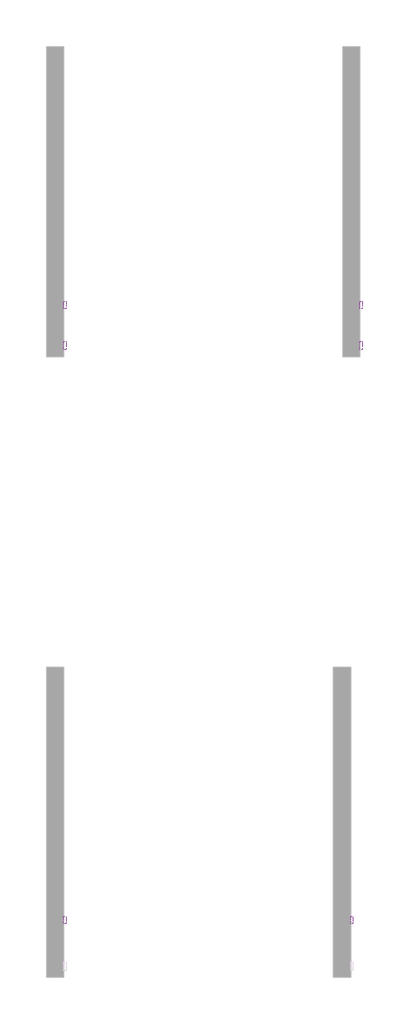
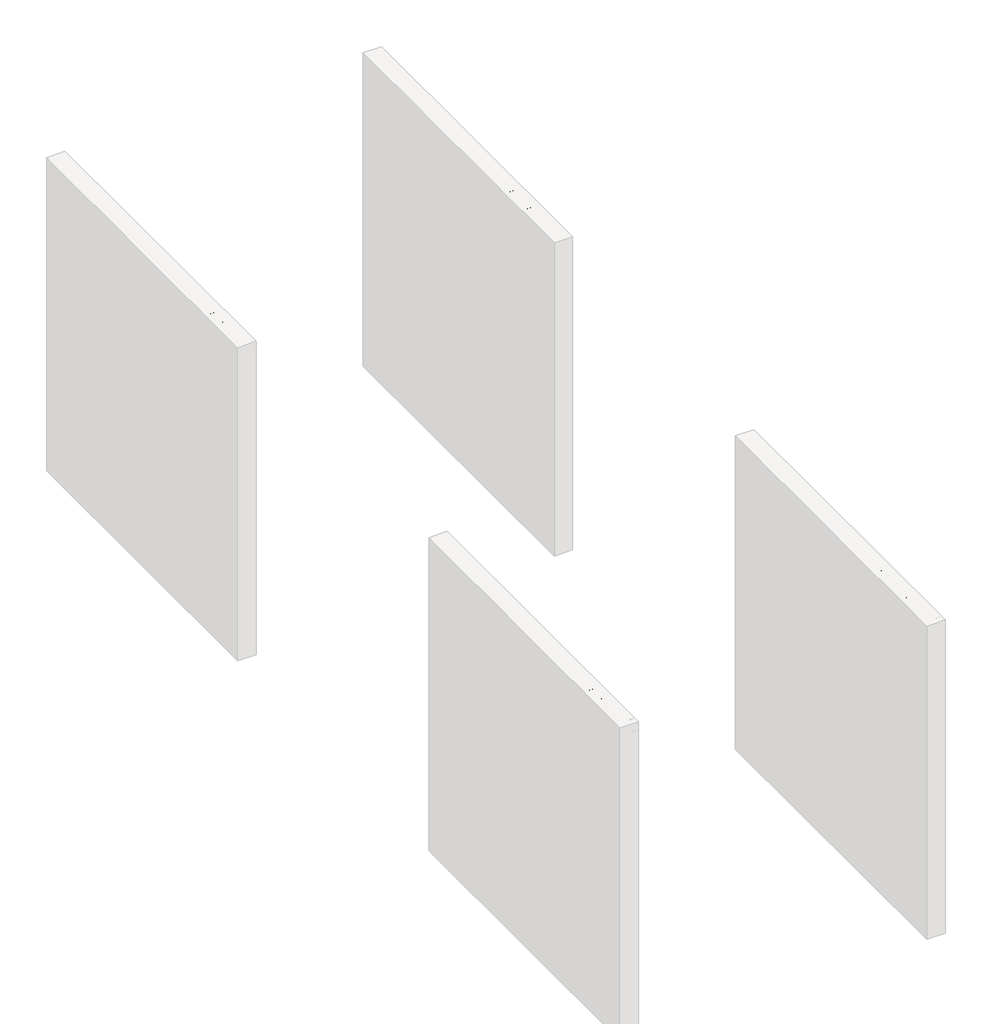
# One storey, part 6 of 8: 6 proxies.
"""IFC4 building model written with IfcOpenShell, lengths in millimetres."""

import ifcopenshell
import ifcopenshell.guid

model = None  # the IFC model being written
_history = None  # IfcOwnerHistory: only IFC2X3 demands one
_inside = {}  # id of a spatial element -> (the spatial element, [elements in it])
_under = {}  # id of a project, library or spatial element -> (it, [spatial elements below it])
_declared = {}  # id of a project -> (the project, [libraries it declares])
_typed = {}  # id of a type object -> (the type object, [elements of that type])
_made_of = {}  # id of a material, layer set ... -> (it, [elements and type objects made of it])


def new_model(schema):
    """Start an empty IFC model of exactly this schema.

    Asked for "IFC4X3", IfcOpenShell would pick the latest addendum, in which some entities
    have other attributes; the version numbers below select the first issue.
    IFC2X3 requires an IfcOwnerHistory on every rooted entity: one is made here for all.
    """
    global model, _history
    if schema == "IFC4X3":
        model = ifcopenshell.file(schema_version=(4, 3, 0, 0))
    else:
        model = ifcopenshell.file(schema=schema)
    _inside.clear()
    _under.clear()
    _declared.clear()
    _typed.clear()
    _made_of.clear()
    _history = None
    if model.schema == "IFC2X3":
        org = make("IfcOrganization", Name="unknown")
        user = make(
            "IfcPersonAndOrganization",
            ThePerson=make("IfcPerson", FamilyName="unknown"),
            TheOrganization=org,
        )
        app = make(
            "IfcApplication",
            ApplicationDeveloper=org,
            Version="unknown",
            ApplicationFullName="unknown",
            ApplicationIdentifier="unknown",
        )
        _history = make(
            "IfcOwnerHistory",
            OwningUser=user,
            OwningApplication=app,
            ChangeAction="ADDED",
            CreationDate=0,
        )
    return model


def make(cls, **values):
    """One entity of the class cls with the attributes given. An attribute that is None is left unset."""
    return model.create_entity(
        cls, **{name: value for name, value in values.items() if value is not None}
    )


def rooted(cls, **values):
    """An entity with a GlobalId (a new one), such as an element, a storey or a relation."""
    return make(cls, GlobalId=ifcopenshell.guid.new(), OwnerHistory=_history, **values)


def si_unit(unit_type, name, prefix=None):
    """IfcSIUnit, for example si_unit("LENGTHUNIT", "METRE", prefix="MILLI")."""
    return make("IfcSIUnit", UnitType=unit_type, Prefix=prefix, Name=name)


def assignment(units):
    """IfcUnitAssignment: the units of a project."""
    return None if units is None else make("IfcUnitAssignment", Units=units)


def point(xyz):
    """IfcCartesianPoint."""
    return None if xyz is None else make("IfcCartesianPoint", Coordinates=xyz)


def direction(xyz):
    """IfcDirection."""
    return None if xyz is None else make("IfcDirection", DirectionRatios=xyz)


def frame(location, z_axis=None, x_axis=None):
    """IfcAxis2Placement3D, a coordinate frame: its origin and axes. An axis left out is left unset."""
    return make(
        "IfcAxis2Placement3D",
        Location=point(location),
        Axis=direction(z_axis),
        RefDirection=direction(x_axis),
    )


def origin():
    """The frame at (0, 0, 0) with its axes left unset."""
    return frame((0.0, 0.0, 0.0))


def place(relative_to, where):
    """IfcLocalPlacement: puts the frame where relative to a parent placement (None: the world)."""
    return make(
        "IfcLocalPlacement", PlacementRelTo=relative_to, RelativePlacement=where
    )


def context(
    kind, dimensions, precision=None, world=None, true_north=None, identifier=None
):
    """IfcGeometricRepresentationContext, for example the 3D "Model" context."""
    return make(
        "IfcGeometricRepresentationContext",
        ContextIdentifier=identifier,
        ContextType=kind,
        CoordinateSpaceDimension=dimensions,
        Precision=precision,
        WorldCoordinateSystem=world,
        TrueNorth=true_north,
    )


def project(units=None, contexts=None):
    """IfcProject with its units and contexts."""
    return rooted(
        "IfcProject",
        Name="project",
        RepresentationContexts=contexts,
        UnitsInContext=assignment(units),
    )


def spatial(cls, under=None, at=None, **own):
    """A site, building, storey or space (cls), placed at a placement, below another one or the project."""
    s = rooted(cls, ObjectPlacement=at, **own)
    if under is not None:
        _under.setdefault(under.id(), (under, []))[1].append(s)
    return s


def polyline(points):
    """IfcPolyline through the points."""
    return make("IfcPolyline", Points=[point(p) for p in points])


def outline(outer, holes=None, kind="AREA"):
    """IfcArbitraryClosedProfileDef: a profile drawn as a closed curve; with holes, ...WithVoids."""
    if holes is None:
        return make("IfcArbitraryClosedProfileDef", ProfileType=kind, OuterCurve=outer)
    return make(
        "IfcArbitraryProfileDefWithVoids",
        ProfileType=kind,
        OuterCurve=outer,
        InnerCurves=holes,
    )


def extrude(swept, where, along, depth):
    """IfcExtrudedAreaSolid: the profile swept, set in the frame where, extruded along a direction by depth."""
    return make(
        "IfcExtrudedAreaSolid",
        SweptArea=swept,
        Position=where,
        ExtrudedDirection=direction(along),
        Depth=depth,
    )


def shape(context_of_items, identifier, shape_type, items):
    """IfcShapeRepresentation: the items that make up one representation, for example the "Body"."""
    return make(
        "IfcShapeRepresentation",
        ContextOfItems=context_of_items,
        RepresentationIdentifier=identifier,
        RepresentationType=shape_type,
        Items=items,
    )


def made_of(thing, what):
    """Note that an element or type object is made of a material, layer set ...; save() writes the relation."""
    if what is not None:
        _made_of.setdefault(what.id(), (what, []))[1].append(thing)
    return thing


def element(
    cls,
    number,
    at=None,
    inside=None,
    cuts=None,
    type_object=None,
    material=None,
    context=None,
    identifier="Body",
    shape_type=None,
    held_by="IfcProductDefinitionShape",
    body=None,
    shapes=None,
    **own,
):
    """One element of the class cls, such as IfcWall. Its Tag is "e" and its number.

    at: its placement. inside: the storey or other place that contains it. cuts: it is an
    opening in that element (IfcRelVoidsElement). A single representation is given by context,
    identifier, shape_type and body (its items); several are given by shapes. held_by: the class
    of the entity that holds the representations. save() writes the other relations.
    """
    e = rooted(cls, Tag="e%d" % number, ObjectPlacement=at, **own)
    if body is not None:
        shapes = [shape(context, identifier, shape_type, body)]
    if shapes is not None:
        e.Representation = make(held_by, Representations=shapes)
    if inside is not None:
        _inside.setdefault(inside.id(), (inside, []))[1].append(e)
    if cuts is not None:
        rooted(
            "IfcRelVoidsElement", RelatingBuildingElement=cuts, RelatedOpeningElement=e
        )
    if type_object is not None:
        _typed.setdefault(type_object.id(), (type_object, []))[1].append(e)
    return made_of(e, material)


def aggregate(whole, parts):
    """IfcRelAggregates: a whole, such as a stair, and the parts it consists of."""
    return rooted("IfcRelAggregates", RelatingObject=whole, RelatedObjects=parts)


def save(model, path):
    """Write the relations noted so far, then the file.

    IfcRelAggregates (storeys below a building ...), IfcRelContainedInSpatialStructure (elements
    in a storey), IfcRelDefinesByType, IfcRelAssociatesMaterial and IfcRelDeclares: one each for
    every whole, place, type object, material and project.
    """
    for whole, parts in _under.values():
        aggregate(whole, parts)
    for where, things in _inside.values():
        rooted(
            "IfcRelContainedInSpatialStructure",
            RelatedElements=things,
            RelatingStructure=where,
        )
    for kind, things in _typed.values():
        rooted("IfcRelDefinesByType", RelatedObjects=things, RelatingType=kind)
    for what, things in _made_of.values():
        rooted("IfcRelAssociatesMaterial", RelatedObjects=things, RelatingMaterial=what)
    for by, libraries in _declared.values():
        rooted("IfcRelDeclares", RelatingContext=by, RelatedDefinitions=libraries)
    model.write(path)


model = new_model("IFC4")

# Units and contexts
model_context = context("Model", 3, world=origin())
ifc_project = project(units=[si_unit("LENGTHUNIT", "METRE", prefix="MILLI")], contexts=[model_context])

# Site, building, storey
site = spatial("IfcSite", under=ifc_project)
building = spatial("IfcBuilding", under=site)
storey = spatial("IfcBuildingStorey", under=building, Name="PORTOBELLO - SHOWROOM", Elevation=0.0)

# Proxies
placement = place(None, origin())
element("IfcBuildingElementProxy", 1, Name="10mm Arial", ObjectType="10mm Arial", at=placement, inside=storey, context=model_context, shape_type="SweptSolid", body=[
    extrude(outline(polyline([(7035.0884642, 2548.8308244), (7035.0884642, 2649.2871345), (7072.3181221, 2649.2871345), (7087.3277075, 2648.3306413), (7099.529127, 2643.6340145), (7107.4385899, 2633.9219299), (7110.4306968, 2620.2244569), (7108.4104115, 2608.384788), (7102.3495556, 2598.5194192), (7091.0157245, 2591.8607551), (7073.1765134, 2589.6412004), (7047.645503, 2589.6412004), (7047.645503, 2548.8308244), (7035.0884642, 2548.8308244)]), holes=[polyline([(7047.645503, 2602.1982392), (7073.9122774, 2602.1982392), (7092.404479, 2606.8090268), (7096.5063633, 2612.3579136), (7097.873658, 2619.7829985), (7094.6485592, 2630.1817963), (7086.1750106, 2635.8717044), (7073.6179718, 2636.7300958), (7047.645503, 2636.7300958), (7047.645503, 2602.1982392)])]), frame((-16651.6960483, 0.0, 0.0), z_axis=(1.0, 0.0, 0.0), x_axis=(0.0, 1.0, 0.0)), (0.0, 0.0, 1.0), 20.0),
    extrude(outline(polyline([(7126.1269953, 2548.8308244), (7126.1269953, 2622.6034272), (7137.1144042, 2622.6034272), (7137.1144042, 2611.6895946), (7144.9135025, 2621.7450358), (7152.7616517, 2624.173057), (7165.3677414, 2620.2980333), (7161.1738867, 2609.0408443), (7152.3447188, 2611.6160182), (7145.2445963, 2609.1389461), (7140.7196477, 2602.2718156), (7138.684034, 2587.6055867), (7138.684034, 2548.8308244), (7126.1269953, 2548.8308244)])), frame((-16651.6960483, 0.0, 0.0), z_axis=(1.0, 0.0, 0.0), x_axis=(0.0, 1.0, 0.0)), (0.0, 0.0, 1.0), 20.0),
    extrude(outline(polyline([(7224.8665228, 2570.8056422), (7237.1783069, 2569.2360124), (7232.7422631, 2559.9592547), (7225.6636004, 2553.0246791), (7216.1017342, 2548.7020657), (7204.2160801, 2547.2611945), (7189.4824062, 2549.7474637), (7178.1455094, 2557.2062711), (7170.9166282, 2569.1532389), (7168.5070011, 2585.1039891), (7170.9411536, 2601.5912339), (7178.2436112, 2613.9214121), (7189.4272239, 2621.6101458), (7203.5048416, 2624.173057), (7217.1440666, 2621.6162771), (7228.0425707, 2613.9459375), (7235.1886784, 2601.6402848), (7237.5707143, 2585.1775655), (7237.4971379, 2581.7930512), (7181.0640399, 2581.7930512), (7183.2376093, 2572.3936662), (7188.2867897, 2565.483616), (7195.5739189, 2561.234579), (7204.4613348, 2559.8182333), (7216.7731189, 2562.4424582), (7224.8665228, 2570.8056422)]), holes=[polyline([(7181.0640399, 2594.3500899), (7225.0136756, 2594.3500899), (7219.985955, 2605.7299063), (7212.6651033, 2610.1444902), (7203.4557906, 2611.6160182), (7187.9924841, 2606.9193914), (7183.1272447, 2601.4287526), (7181.0640399, 2594.3500899)])]), frame((-16651.6960483, 0.0, 0.0), z_axis=(1.0, 0.0, 0.0), x_axis=(0.0, 1.0, 0.0)), (0.0, 0.0, 1.0), 20.0),
    extrude(outline(polyline([(7276.8114605, 2559.3031985), (7278.3810903, 2548.4629424), (7268.9878367, 2547.2611945), (7258.4664117, 2549.3458592), (7253.2179619, 2554.8150382), (7251.697383, 2569.0643341), (7251.697383, 2610.0463884), (7242.2796039, 2610.0463884), (7242.2796039, 2622.6034272), (7251.697383, 2622.6034272), (7251.697383, 2640.531543), (7264.2544217, 2647.9137084), (7264.2544217, 2622.6034272), (7276.8114605, 2622.6034272), (7276.8114605, 2610.0463884), (7264.2544217, 2610.0463884), (7264.2544217, 2569.4322161), (7264.9166093, 2562.957493), (7267.0625876, 2560.6643619), (7271.3422815, 2559.8182333), (7276.8114605, 2559.3031985)])), frame((-16651.6960483, 0.0, 0.0), z_axis=(1.0, 0.0, 0.0), x_axis=(0.0, 1.0, 0.0)), (0.0, 0.0, 1.0), 20.0),
    extrude(outline(polyline([(7286.2292396, 2585.7171258), (7288.945435, 2603.5042202), (7297.0940212, 2616.0060767), (7307.1617251, 2622.1313119), (7319.2159918, 2624.173057), (7332.407627, 2621.6867878), (7342.9443805, 2614.2279804), (7349.8513649, 2602.3852458), (7352.1536931, 2586.7471954), (7348.0824657, 2564.4044955), (7336.2244027, 2551.7616176), (7319.2159918, 2547.2611945), (7305.8649411, 2549.7382666), (7295.3404503, 2557.1694829), (7288.5070423, 2569.2605379), (7286.2292396, 2585.7171258)]), holes=[polyline([(7298.7862783, 2585.7416512), (7300.2394122, 2574.3771633), (7304.5988139, 2566.2806937), (7311.1593761, 2561.4338484), (7319.2159918, 2559.8182333), (7327.2358193, 2561.4430455), (7333.7841188, 2566.3174819), (7338.1435205, 2574.5212504), (7339.5966543, 2586.1340587), (7338.1343234, 2597.1674529), (7333.7473306, 2605.1535578), (7327.189834, 2610.0004031), (7319.2159918, 2611.6160182), (7311.1593761, 2610.0065345), (7304.5988139, 2605.1780833), (7300.2394122, 2597.1000078), (7298.7862783, 2585.7416512)])]), frame((-16651.6960483, 0.0, 0.0), z_axis=(1.0, 0.0, 0.0), x_axis=(0.0, 1.0, 0.0)), (0.0, 0.0, 1.0), 20.0),
])
element("IfcBuildingElementProxy", 2, Name="10mm Arial", ObjectType="10mm Arial", at=placement, inside=storey, context=model_context, shape_type="SweptSolid", body=[
    extrude(outline(polyline([(7035.0884642, 2548.8308244), (7035.0884642, 2649.2871345), (7072.3181221, 2649.2871345), (7087.3277075, 2648.3306413), (7099.529127, 2643.6340145), (7107.4385899, 2633.9219299), (7110.4306968, 2620.2244569), (7108.4104115, 2608.384788), (7102.3495556, 2598.5194192), (7091.0157245, 2591.8607551), (7073.1765134, 2589.6412004), (7047.645503, 2589.6412004), (7047.645503, 2548.8308244), (7035.0884642, 2548.8308244)]), holes=[polyline([(7047.645503, 2602.1982392), (7073.9122774, 2602.1982392), (7092.404479, 2606.8090268), (7096.5063633, 2612.3579136), (7097.873658, 2619.7829985), (7094.6485592, 2630.1817963), (7086.1750106, 2635.8717044), (7073.6179718, 2636.7300958), (7047.645503, 2636.7300958), (7047.645503, 2602.1982392)])]), frame((-19232.9960483, 0.0, 0.0), z_axis=(1.0, 0.0, 0.0), x_axis=(0.0, 1.0, 0.0)), (0.0, 0.0, 1.0), 20.0),
    extrude(outline(polyline([(7126.1269953, 2548.8308244), (7126.1269953, 2622.6034272), (7137.1144042, 2622.6034272), (7137.1144042, 2611.6895946), (7144.9135025, 2621.7450358), (7152.7616517, 2624.173057), (7165.3677414, 2620.2980333), (7161.1738867, 2609.0408443), (7152.3447188, 2611.6160182), (7145.2445963, 2609.1389461), (7140.7196477, 2602.2718156), (7138.684034, 2587.6055867), (7138.684034, 2548.8308244), (7126.1269953, 2548.8308244)])), frame((-19232.9960483, 0.0, 0.0), z_axis=(1.0, 0.0, 0.0), x_axis=(0.0, 1.0, 0.0)), (0.0, 0.0, 1.0), 20.0),
    extrude(outline(polyline([(7224.8665228, 2570.8056422), (7237.1783069, 2569.2360124), (7232.7422631, 2559.9592547), (7225.6636004, 2553.0246791), (7216.1017342, 2548.7020657), (7204.2160801, 2547.2611945), (7189.4824062, 2549.7474637), (7178.1455094, 2557.2062711), (7170.9166282, 2569.1532389), (7168.5070011, 2585.1039891), (7170.9411536, 2601.5912339), (7178.2436112, 2613.9214121), (7189.4272239, 2621.6101458), (7203.5048416, 2624.173057), (7217.1440666, 2621.6162771), (7228.0425707, 2613.9459375), (7235.1886784, 2601.6402848), (7237.5707143, 2585.1775655), (7237.4971379, 2581.7930512), (7181.0640399, 2581.7930512), (7183.2376093, 2572.3936662), (7188.2867897, 2565.483616), (7195.5739189, 2561.234579), (7204.4613348, 2559.8182333), (7216.7731189, 2562.4424582), (7224.8665228, 2570.8056422)]), holes=[polyline([(7181.0640399, 2594.3500899), (7225.0136756, 2594.3500899), (7219.985955, 2605.7299063), (7212.6651033, 2610.1444902), (7203.4557906, 2611.6160182), (7187.9924841, 2606.9193914), (7183.1272447, 2601.4287526), (7181.0640399, 2594.3500899)])]), frame((-19232.9960483, 0.0, 0.0), z_axis=(1.0, 0.0, 0.0), x_axis=(0.0, 1.0, 0.0)), (0.0, 0.0, 1.0), 20.0),
    extrude(outline(polyline([(7276.8114605, 2559.3031985), (7278.3810903, 2548.4629424), (7268.9878367, 2547.2611945), (7258.4664117, 2549.3458592), (7253.2179619, 2554.8150382), (7251.697383, 2569.0643341), (7251.697383, 2610.0463884), (7242.2796039, 2610.0463884), (7242.2796039, 2622.6034272), (7251.697383, 2622.6034272), (7251.697383, 2640.531543), (7264.2544217, 2647.9137084), (7264.2544217, 2622.6034272), (7276.8114605, 2622.6034272), (7276.8114605, 2610.0463884), (7264.2544217, 2610.0463884), (7264.2544217, 2569.4322161), (7264.9166093, 2562.957493), (7267.0625876, 2560.6643619), (7271.3422815, 2559.8182333), (7276.8114605, 2559.3031985)])), frame((-19232.9960483, 0.0, 0.0), z_axis=(1.0, 0.0, 0.0), x_axis=(0.0, 1.0, 0.0)), (0.0, 0.0, 1.0), 20.0),
    extrude(outline(polyline([(7286.2292396, 2585.7171258), (7288.945435, 2603.5042202), (7297.0940212, 2616.0060767), (7307.1617251, 2622.1313119), (7319.2159918, 2624.173057), (7332.407627, 2621.6867878), (7342.9443805, 2614.2279804), (7349.8513649, 2602.3852458), (7352.1536931, 2586.7471954), (7348.0824657, 2564.4044955), (7336.2244027, 2551.7616176), (7319.2159918, 2547.2611945), (7305.8649411, 2549.7382666), (7295.3404503, 2557.1694829), (7288.5070423, 2569.2605379), (7286.2292396, 2585.7171258)]), holes=[polyline([(7298.7862783, 2585.7416512), (7300.2394122, 2574.3771633), (7304.5988139, 2566.2806937), (7311.1593761, 2561.4338484), (7319.2159918, 2559.8182333), (7327.2358193, 2561.4430455), (7333.7841188, 2566.3174819), (7338.1435205, 2574.5212504), (7339.5966543, 2586.1340587), (7338.1343234, 2597.1674529), (7333.7473306, 2605.1535578), (7327.189834, 2610.0004031), (7319.2159918, 2611.6160182), (7311.1593761, 2610.0065345), (7304.5988139, 2605.1780833), (7300.2394122, 2597.1000078), (7298.7862783, 2585.7416512)])]), frame((-19232.9960483, 0.0, 0.0), z_axis=(1.0, 0.0, 0.0), x_axis=(0.0, 1.0, 0.0)), (0.0, 0.0, 1.0), 20.0),
])
element("IfcBuildingElementProxy", 3, Name="10mm Arial Narrow", ObjectType="10mm Arial Narrow", at=placement, inside=storey, context=model_context, shape_type="SweptSolid", body=[
    extrude(outline(polyline([(7392.2235233, 2548.8308244), (7392.2235233, 2649.5494281), (7423.520408, 2649.5494281), (7439.8161095, 2647.6711074), (7451.2890956, 2638.1906642), (7455.5787741, 2621.1715554), (7453.7924657, 2609.0957299), (7448.4335405, 2599.4693361), (7438.6897516, 2593.1680777), (7423.7488524, 2591.0676582), (7401.970485, 2591.0676582), (7401.970485, 2548.8308244), (7392.2235233, 2548.8308244)]), holes=[polyline([(7401.970485, 2602.4391135), (7424.9418399, 2602.4391135), (7440.8060353, 2606.9699277), (7445.8318124, 2620.6385184), (7443.3569979, 2630.8042949), (7437.3793691, 2636.6042447), (7424.7133955, 2638.1779729), (7401.970485, 2638.1779729), (7401.970485, 2602.4391135)])]), frame((-16651.6960483, 0.0, 0.0), z_axis=(1.0, 0.0, 0.0), x_axis=(0.0, 1.0, 0.0)), (0.0, 0.0, 1.0), 20.0),
    extrude(outline(polyline([(7463.7012421, 2585.3819306), (7465.655711, 2601.9727061), (7471.5191176, 2613.9247909), (7480.3776843, 2621.1493455), (7491.3176335, 2623.5575304), (7502.130669, 2621.1493455), (7511.0146185, 2613.9247909), (7516.9541732, 2602.1630765), (7518.9340248, 2586.143412), (7516.9890745, 2568.9815254), (7511.1542234, 2556.8390702), (7502.3051752, 2549.6145156), (7491.3176335, 2547.2063308), (7480.4570053, 2549.6208613), (7471.5825744, 2556.8644529), (7465.6715752, 2568.8228834), (7463.7012421, 2585.3819306)]), holes=[polyline([(7473.4482038, 2585.4073133), (7474.7522406, 2572.8555619), (7478.6643512, 2563.9843038), (7484.505548, 2558.7110453), (7491.5968433, 2556.9532924), (7498.3169165, 2558.7269095), (7504.0089898, 2564.0477606), (7507.8925448, 2572.9348829), (7509.1870632, 2585.4073133), (7507.8830263, 2597.9209906), (7503.9709157, 2606.7795573), (7498.129719, 2612.0528159), (7491.0384236, 2613.8105687), (7484.2707579, 2612.0432974), (7478.5882031, 2606.7414833), (7474.7332036, 2597.873398), (7473.4482038, 2585.4073133)])]), frame((-16651.6960483, 0.0, 0.0), z_axis=(1.0, 0.0, 0.0), x_axis=(0.0, 1.0, 0.0)), (0.0, 0.0, 1.0), 20.0),
    extrude(outline(polyline([(7590.4117436, 2556.9532924), (7592.0362372, 2547.2063308), (7584.6752505, 2547.2063308), (7576.4004862, 2549.3257873), (7572.0854251, 2555.1257371), (7570.9178203, 2569.7715623), (7570.9178203, 2612.1860751), (7562.7953522, 2612.1860751), (7562.7953522, 2615.4350624), (7561.1708586, 2610.5615815), (7553.6068103, 2612.1860751), (7547.5276506, 2609.8635569), (7543.6567869, 2603.3782738), (7541.6769353, 2587.9709673), (7541.6769353, 2548.8308244), (7531.9299737, 2548.8308244), (7531.9299737, 2621.9330368), (7541.6769353, 2621.9330368), (7541.6769353, 2612.2368406), (7547.9210826, 2621.3238517), (7554.3175262, 2623.5575304), (7562.7953522, 2621.9330368), (7570.9178203, 2621.9330368), (7570.9178203, 2638.1779729), (7580.6647819, 2646.3004409), (7580.6647819, 2621.9330368), (7590.4117436, 2621.9330368), (7590.4117436, 2612.1860751), (7580.6647819, 2612.1860751), (7580.6647819, 2567.5378836), (7581.5277942, 2559.5423291), (7586.1474479, 2556.9532924), (7590.4117436, 2556.9532924)])), frame((-16651.6960483, 0.0, 0.0), z_axis=(1.0, 0.0, 0.0), x_axis=(0.0, 1.0, 0.0)), (0.0, 0.0, 1.0), 20.0),
    extrude(outline(polyline([(7596.909718, 2585.3819306), (7598.8641869, 2601.9727061), (7604.7275935, 2613.9247909), (7613.5861602, 2621.1493455), (7624.5261094, 2623.5575304), (7635.339145, 2621.1493455), (7644.2230944, 2613.9247909), (7650.1626492, 2602.1630765), (7652.1425007, 2586.143412), (7650.1975504, 2568.9815254), (7644.3626993, 2556.8390702), (7635.5136511, 2549.6145156), (7624.5261094, 2547.2063308), (7613.6654812, 2549.6208613), (7604.7910503, 2556.8644529), (7598.8800511, 2568.8228834), (7596.909718, 2585.3819306)]), holes=[polyline([(7606.6566797, 2585.4073133), (7607.9607166, 2572.8555619), (7611.8728271, 2563.9843038), (7617.7140239, 2558.7110453), (7624.8053192, 2556.9532924), (7631.5253924, 2558.7269095), (7637.2174657, 2564.0477606), (7641.1010207, 2572.9348829), (7642.3955391, 2585.4073133), (7641.0915022, 2597.9209906), (7637.1793916, 2606.7795573), (7631.3381949, 2612.0528159), (7624.2468995, 2613.8105687), (7617.4792338, 2612.0432974), (7611.796679, 2606.7414833), (7607.9416795, 2597.873398), (7606.6566797, 2585.4073133)])]), frame((-16651.6960483, 0.0, 0.0), z_axis=(1.0, 0.0, 0.0), x_axis=(0.0, 1.0, 0.0)), (0.0, 0.0, 1.0), 20.0),
    extrude(outline(polyline([(7674.8854113, 2548.8308244), (7665.1384496, 2548.8308244), (7665.1384496, 2649.5494281), (7674.8854113, 2649.5494281), (7674.8854113, 2614.140544), (7682.284472, 2621.2223208), (7691.4857053, 2623.5575304), (7704.367432, 2619.3566915), (7713.6448135, 2606.6272611), (7717.1222451, 2585.9403503), (7715.1899861, 2569.4860068), (7709.3932091, 2557.2832677), (7701.0200868, 2549.725565), (7691.3587918, 2547.2063308), (7682.0179535, 2549.8207502), (7674.8854113, 2557.5878602), (7674.8854113, 2548.8308244)]), holes=[polyline([(7674.8854113, 2585.9403503), (7676.9667937, 2568.692797), (7682.855583, 2559.9611439), (7691.3080263, 2556.9532924), (7697.2507539, 2558.7427737), (7702.4891113, 2564.1112174), (7707.3752834, 2585.5342269), (7702.6667902, 2606.9699277), (7697.4220872, 2612.1004085), (7691.1049646, 2613.8105687), (7685.1273358, 2612.0210875), (7679.8350402, 2606.6526438), (7674.8854113, 2585.9403503)])]), frame((-16651.6960483, 0.0, 0.0), z_axis=(1.0, 0.0, 0.0), x_axis=(0.0, 1.0, 0.0)), (0.0, 0.0, 1.0), 20.0),
    extrude(outline(polyline([(7769.1060406, 2571.5737349), (7778.8530022, 2569.9492413), (7775.1534719, 2560.0626747), (7769.334485, 2552.9428238), (7761.6308317, 2548.640454), (7752.2773021, 2547.2063308), (7740.6837481, 2549.6208613), (7731.5396259, 2556.8644529), (7725.6000711, 2568.6705872), (7723.6202195, 2584.7727455), (7725.6095896, 2601.4396692), (7731.5776999, 2613.6201984), (7740.5917358, 2621.0731974), (7751.7188824, 2623.5575304), (7762.4018316, 2621.1588641), (7771.1493489, 2613.962865), (7776.9842, 2602.2233604), (7778.9291504, 2586.1941774), (7778.8530022, 2582.9451902), (7733.3671812, 2582.9451902), (7739.3701927, 2563.5020323), (7745.300229, 2558.5904774), (7752.4042157, 2556.9532924), (7762.5826834, 2560.608403), (7769.1060406, 2571.5737349)]), holes=[polyline([(7734.0271317, 2592.6921518), (7769.1060406, 2592.6921518), (7764.8417449, 2606.9572363), (7759.0164123, 2612.0972356), (7751.7950306, 2613.8105687), (7739.5859458, 2608.0994584), (7734.0271317, 2592.6921518)])]), frame((-16651.6960483, 0.0, 0.0), z_axis=(1.0, 0.0, 0.0), x_axis=(0.0, 1.0, 0.0)), (0.0, 0.0, 1.0), 20.0),
    extrude(outline(polyline([(-16631.6960483, 7801.5959128), (-16631.6960483, 7791.8489511), (-16651.6960483, 7791.8489511), (-16651.6960483, 7801.5959128), (-16631.6960483, 7801.5959128)])), frame((0.0, 0.0, 2548.8308244), z_axis=(0.0, 0.0, 1.0), x_axis=(1.0, 0.0, 0.0)), (0.0, 0.0, 1.0), 100.7186038),
    extrude(outline(polyline([(-16631.6960483, 7827.5878105), (-16631.6960483, 7817.8408488), (-16651.6960483, 7817.8408488), (-16651.6960483, 7827.5878105), (-16631.6960483, 7827.5878105)])), frame((0.0, 0.0, 2548.8308244), z_axis=(0.0, 0.0, 1.0), x_axis=(1.0, 0.0, 0.0)), (0.0, 0.0, 1.0), 100.7186038),
    extrude(outline(polyline([(7838.9592658, 2585.3819306), (7840.9137346, 2601.9727061), (7846.7771413, 2613.9247909), (7855.635708, 2621.1493455), (7866.5756571, 2623.5575304), (7877.3886927, 2621.1493455), (7886.2726421, 2613.9247909), (7892.2121969, 2602.1630765), (7894.1920485, 2586.143412), (7892.2470981, 2568.9815254), (7886.412247, 2556.8390702), (7877.5631988, 2549.6145156), (7866.5756571, 2547.2063308), (7855.7150289, 2549.6208613), (7846.840598, 2556.8644529), (7840.9295988, 2568.8228834), (7838.9592658, 2585.3819306)]), holes=[polyline([(7848.7062274, 2585.4073133), (7850.0102643, 2572.8555619), (7853.9223749, 2563.9843038), (7859.7635716, 2558.7110453), (7866.854867, 2556.9532924), (7873.5749401, 2558.7269095), (7879.2670134, 2564.0477606), (7883.1505685, 2572.9348829), (7884.4450868, 2585.4073133), (7883.14105, 2597.9209906), (7879.2289394, 2606.7795573), (7873.3877426, 2612.0528159), (7866.2964473, 2613.8105687), (7859.5287815, 2612.0432974), (7853.8462267, 2606.7414833), (7849.9912272, 2597.873398), (7848.7062274, 2585.4073133)])]), frame((-16651.6960483, 0.0, 0.0), z_axis=(1.0, 0.0, 0.0), x_axis=(0.0, 1.0, 0.0)), (0.0, 0.0, 1.0), 20.0),
])
element("IfcBuildingElementProxy", 4, Name="10mm Arial Narrow", ObjectType="10mm Arial Narrow", at=placement, inside=storey, context=model_context, shape_type="SweptSolid", body=[
    extrude(outline(polyline([(7392.2235233, 2548.8308244), (7392.2235233, 2649.5494281), (7423.520408, 2649.5494281), (7439.8161095, 2647.6711074), (7451.2890956, 2638.1906642), (7455.5787741, 2621.1715554), (7453.7924657, 2609.0957299), (7448.4335405, 2599.4693361), (7438.6897516, 2593.1680777), (7423.7488524, 2591.0676582), (7401.970485, 2591.0676582), (7401.970485, 2548.8308244), (7392.2235233, 2548.8308244)]), holes=[polyline([(7401.970485, 2602.4391135), (7424.9418399, 2602.4391135), (7440.8060353, 2606.9699277), (7445.8318124, 2620.6385184), (7443.3569979, 2630.8042949), (7437.3793691, 2636.6042447), (7424.7133955, 2638.1779729), (7401.970485, 2638.1779729), (7401.970485, 2602.4391135)])]), frame((-19232.9960483, 0.0, 0.0), z_axis=(1.0, 0.0, 0.0), x_axis=(0.0, 1.0, 0.0)), (0.0, 0.0, 1.0), 20.0),
    extrude(outline(polyline([(7463.7012421, 2585.3819306), (7465.655711, 2601.9727061), (7471.5191176, 2613.9247909), (7480.3776843, 2621.1493455), (7491.3176335, 2623.5575304), (7502.130669, 2621.1493455), (7511.0146185, 2613.9247909), (7516.9541732, 2602.1630765), (7518.9340248, 2586.143412), (7516.9890745, 2568.9815254), (7511.1542234, 2556.8390702), (7502.3051752, 2549.6145156), (7491.3176335, 2547.2063308), (7480.4570053, 2549.6208613), (7471.5825744, 2556.8644529), (7465.6715752, 2568.8228834), (7463.7012421, 2585.3819306)]), holes=[polyline([(7473.4482038, 2585.4073133), (7474.7522406, 2572.8555619), (7478.6643512, 2563.9843038), (7484.505548, 2558.7110453), (7491.5968433, 2556.9532924), (7498.3169165, 2558.7269095), (7504.0089898, 2564.0477606), (7507.8925448, 2572.9348829), (7509.1870632, 2585.4073133), (7507.8830263, 2597.9209906), (7503.9709157, 2606.7795573), (7498.129719, 2612.0528159), (7491.0384236, 2613.8105687), (7484.2707579, 2612.0432974), (7478.5882031, 2606.7414833), (7474.7332036, 2597.873398), (7473.4482038, 2585.4073133)])]), frame((-19232.9960483, 0.0, 0.0), z_axis=(1.0, 0.0, 0.0), x_axis=(0.0, 1.0, 0.0)), (0.0, 0.0, 1.0), 20.0),
    extrude(outline(polyline([(7590.4117436, 2556.9532924), (7592.0362372, 2547.2063308), (7584.6752505, 2547.2063308), (7576.4004862, 2549.3257873), (7572.0854251, 2555.1257371), (7570.9178203, 2569.7715623), (7570.9178203, 2612.1860751), (7562.7953522, 2612.1860751), (7562.7953522, 2615.4350624), (7561.1708586, 2610.5615815), (7553.6068103, 2612.1860751), (7547.5276506, 2609.8635569), (7543.6567869, 2603.3782738), (7541.6769353, 2587.9709673), (7541.6769353, 2548.8308244), (7531.9299737, 2548.8308244), (7531.9299737, 2621.9330368), (7541.6769353, 2621.9330368), (7541.6769353, 2612.2368406), (7547.9210826, 2621.3238517), (7554.3175262, 2623.5575304), (7562.7953522, 2621.9330368), (7570.9178203, 2621.9330368), (7570.9178203, 2638.1779729), (7580.6647819, 2646.3004409), (7580.6647819, 2621.9330368), (7590.4117436, 2621.9330368), (7590.4117436, 2612.1860751), (7580.6647819, 2612.1860751), (7580.6647819, 2567.5378836), (7581.5277942, 2559.5423291), (7586.1474479, 2556.9532924), (7590.4117436, 2556.9532924)])), frame((-19232.9960483, 0.0, 0.0), z_axis=(1.0, 0.0, 0.0), x_axis=(0.0, 1.0, 0.0)), (0.0, 0.0, 1.0), 20.0),
    extrude(outline(polyline([(7596.909718, 2585.3819306), (7598.8641869, 2601.9727061), (7604.7275935, 2613.9247909), (7613.5861602, 2621.1493455), (7624.5261094, 2623.5575304), (7635.339145, 2621.1493455), (7644.2230944, 2613.9247909), (7650.1626492, 2602.1630765), (7652.1425007, 2586.143412), (7650.1975504, 2568.9815254), (7644.3626993, 2556.8390702), (7635.5136511, 2549.6145156), (7624.5261094, 2547.2063308), (7613.6654812, 2549.6208613), (7604.7910503, 2556.8644529), (7598.8800511, 2568.8228834), (7596.909718, 2585.3819306)]), holes=[polyline([(7606.6566797, 2585.4073133), (7607.9607166, 2572.8555619), (7611.8728271, 2563.9843038), (7617.7140239, 2558.7110453), (7624.8053192, 2556.9532924), (7631.5253924, 2558.7269095), (7637.2174657, 2564.0477606), (7641.1010207, 2572.9348829), (7642.3955391, 2585.4073133), (7641.0915022, 2597.9209906), (7637.1793916, 2606.7795573), (7631.3381949, 2612.0528159), (7624.2468995, 2613.8105687), (7617.4792338, 2612.0432974), (7611.796679, 2606.7414833), (7607.9416795, 2597.873398), (7606.6566797, 2585.4073133)])]), frame((-19232.9960483, 0.0, 0.0), z_axis=(1.0, 0.0, 0.0), x_axis=(0.0, 1.0, 0.0)), (0.0, 0.0, 1.0), 20.0),
    extrude(outline(polyline([(7674.8854113, 2548.8308244), (7665.1384496, 2548.8308244), (7665.1384496, 2649.5494281), (7674.8854113, 2649.5494281), (7674.8854113, 2614.140544), (7682.284472, 2621.2223208), (7691.4857053, 2623.5575304), (7704.367432, 2619.3566915), (7713.6448135, 2606.6272611), (7717.1222451, 2585.9403503), (7715.1899861, 2569.4860068), (7709.3932091, 2557.2832677), (7701.0200868, 2549.725565), (7691.3587918, 2547.2063308), (7682.0179535, 2549.8207502), (7674.8854113, 2557.5878602), (7674.8854113, 2548.8308244)]), holes=[polyline([(7674.8854113, 2585.9403503), (7676.9667937, 2568.692797), (7682.855583, 2559.9611439), (7691.3080263, 2556.9532924), (7697.2507539, 2558.7427737), (7702.4891113, 2564.1112174), (7707.3752834, 2585.5342269), (7702.6667902, 2606.9699277), (7697.4220872, 2612.1004085), (7691.1049646, 2613.8105687), (7685.1273358, 2612.0210875), (7679.8350402, 2606.6526438), (7674.8854113, 2585.9403503)])]), frame((-19232.9960483, 0.0, 0.0), z_axis=(1.0, 0.0, 0.0), x_axis=(0.0, 1.0, 0.0)), (0.0, 0.0, 1.0), 20.0),
    extrude(outline(polyline([(7769.1060406, 2571.5737349), (7778.8530022, 2569.9492413), (7775.1534719, 2560.0626747), (7769.334485, 2552.9428238), (7761.6308317, 2548.640454), (7752.2773021, 2547.2063308), (7740.6837481, 2549.6208613), (7731.5396259, 2556.8644529), (7725.6000711, 2568.6705872), (7723.6202195, 2584.7727455), (7725.6095896, 2601.4396692), (7731.5776999, 2613.6201984), (7740.5917358, 2621.0731974), (7751.7188824, 2623.5575304), (7762.4018316, 2621.1588641), (7771.1493489, 2613.962865), (7776.9842, 2602.2233604), (7778.9291504, 2586.1941774), (7778.8530022, 2582.9451902), (7733.3671812, 2582.9451902), (7739.3701927, 2563.5020323), (7745.300229, 2558.5904774), (7752.4042157, 2556.9532924), (7762.5826834, 2560.608403), (7769.1060406, 2571.5737349)]), holes=[polyline([(7734.0271317, 2592.6921518), (7769.1060406, 2592.6921518), (7764.8417449, 2606.9572363), (7759.0164123, 2612.0972356), (7751.7950306, 2613.8105687), (7739.5859458, 2608.0994584), (7734.0271317, 2592.6921518)])]), frame((-19232.9960483, 0.0, 0.0), z_axis=(1.0, 0.0, 0.0), x_axis=(0.0, 1.0, 0.0)), (0.0, 0.0, 1.0), 20.0),
    extrude(outline(polyline([(-19212.9960483, 7801.5959128), (-19212.9960483, 7791.8489511), (-19232.9960483, 7791.8489511), (-19232.9960483, 7801.5959128), (-19212.9960483, 7801.5959128)])), frame((0.0, 0.0, 2548.8308244), z_axis=(0.0, 0.0, 1.0), x_axis=(1.0, 0.0, 0.0)), (0.0, 0.0, 1.0), 100.7186038),
    extrude(outline(polyline([(-19212.9960483, 7827.5878105), (-19212.9960483, 7817.8408488), (-19232.9960483, 7817.8408488), (-19232.9960483, 7827.5878105), (-19212.9960483, 7827.5878105)])), frame((0.0, 0.0, 2548.8308244), z_axis=(0.0, 0.0, 1.0), x_axis=(1.0, 0.0, 0.0)), (0.0, 0.0, 1.0), 100.7186038),
    extrude(outline(polyline([(7838.9592658, 2585.3819306), (7840.9137346, 2601.9727061), (7846.7771413, 2613.9247909), (7855.635708, 2621.1493455), (7866.5756571, 2623.5575304), (7877.3886927, 2621.1493455), (7886.2726421, 2613.9247909), (7892.2121969, 2602.1630765), (7894.1920485, 2586.143412), (7892.2470981, 2568.9815254), (7886.412247, 2556.8390702), (7877.5631988, 2549.6145156), (7866.5756571, 2547.2063308), (7855.7150289, 2549.6208613), (7846.840598, 2556.8644529), (7840.9295988, 2568.8228834), (7838.9592658, 2585.3819306)]), holes=[polyline([(7848.7062274, 2585.4073133), (7850.0102643, 2572.8555619), (7853.9223749, 2563.9843038), (7859.7635716, 2558.7110453), (7866.854867, 2556.9532924), (7873.5749401, 2558.7269095), (7879.2670134, 2564.0477606), (7883.1505685, 2572.9348829), (7884.4450868, 2585.4073133), (7883.14105, 2597.9209906), (7879.2289394, 2606.7795573), (7873.3877426, 2612.0528159), (7866.2964473, 2613.8105687), (7859.5287815, 2612.0432974), (7853.8462267, 2606.7414833), (7849.9912272, 2597.873398), (7848.7062274, 2585.4073133)])]), frame((-19232.9960483, 0.0, 0.0), z_axis=(1.0, 0.0, 0.0), x_axis=(0.0, 1.0, 0.0)), (0.0, 0.0, 1.0), 20.0),
])
element("IfcBuildingElementProxy", 5, Name="10mm Arial Narrow", ObjectType="10mm Arial Narrow", at=placement, inside=storey, context=model_context, shape_type="SweptSolid", body=[
    extrude(outline(polyline([(2042.2235233, 2548.8308244), (2042.2235233, 2649.5494281), (2073.520408, 2649.5494281), (2089.8161095, 2647.6711074), (2101.2890956, 2638.1906642), (2105.5787741, 2621.1715554), (2103.7924657, 2609.0957299), (2098.4335405, 2599.4693361), (2088.6897516, 2593.1680777), (2073.7488524, 2591.0676582), (2051.970485, 2591.0676582), (2051.970485, 2548.8308244), (2042.2235233, 2548.8308244)]), holes=[polyline([(2051.970485, 2602.4391135), (2074.9418399, 2602.4391135), (2090.8060353, 2606.9699277), (2095.8318124, 2620.6385184), (2093.3569979, 2630.8042949), (2087.3793691, 2636.6042447), (2074.7133955, 2638.1779729), (2051.970485, 2638.1779729), (2051.970485, 2602.4391135)])]), frame((-16732.9960483, 0.0, 0.0), z_axis=(1.0, 0.0, 0.0), x_axis=(0.0, 1.0, 0.0)), (0.0, 0.0, 1.0), 20.0),
    extrude(outline(polyline([(2113.7012421, 2585.3819306), (2115.655711, 2601.9727061), (2121.5191176, 2613.9247909), (2130.3776843, 2621.1493455), (2141.3176335, 2623.5575304), (2152.130669, 2621.1493455), (2161.0146185, 2613.9247909), (2166.9541732, 2602.1630765), (2168.9340248, 2586.143412), (2166.9890745, 2568.9815254), (2161.1542234, 2556.8390702), (2152.3051752, 2549.6145156), (2141.3176335, 2547.2063308), (2130.4570053, 2549.6208613), (2121.5825744, 2556.8644529), (2115.6715752, 2568.8228834), (2113.7012421, 2585.3819306)]), holes=[polyline([(2123.4482038, 2585.4073133), (2124.7522406, 2572.8555619), (2128.6643512, 2563.9843038), (2134.505548, 2558.7110453), (2141.5968433, 2556.9532924), (2148.3169165, 2558.7269095), (2154.0089898, 2564.0477606), (2157.8925448, 2572.9348829), (2159.1870632, 2585.4073133), (2157.8830263, 2597.9209906), (2153.9709157, 2606.7795573), (2148.129719, 2612.0528159), (2141.0384236, 2613.8105687), (2134.2707579, 2612.0432974), (2128.5882031, 2606.7414833), (2124.7332036, 2597.873398), (2123.4482038, 2585.4073133)])]), frame((-16732.9960483, 0.0, 0.0), z_axis=(1.0, 0.0, 0.0), x_axis=(0.0, 1.0, 0.0)), (0.0, 0.0, 1.0), 20.0),
    extrude(outline(polyline([(2240.4117436, 2556.9532924), (2242.0362372, 2547.2063308), (2234.6752505, 2547.2063308), (2226.4004862, 2549.3257873), (2222.0854251, 2555.1257371), (2220.9178203, 2569.7715623), (2220.9178203, 2612.1860751), (2212.7953522, 2612.1860751), (2212.7953522, 2615.4350624), (2211.1708586, 2610.5615815), (2203.6068103, 2612.1860751), (2197.5276506, 2609.8635569), (2193.6567869, 2603.3782738), (2191.6769353, 2587.9709673), (2191.6769353, 2548.8308244), (2181.9299737, 2548.8308244), (2181.9299737, 2621.9330368), (2191.6769353, 2621.9330368), (2191.6769353, 2612.2368406), (2197.9210826, 2621.3238517), (2204.3175262, 2623.5575304), (2212.7953522, 2621.9330368), (2220.9178203, 2621.9330368), (2220.9178203, 2638.1779729), (2230.6647819, 2646.3004409), (2230.6647819, 2621.9330368), (2240.4117436, 2621.9330368), (2240.4117436, 2612.1860751), (2230.6647819, 2612.1860751), (2230.6647819, 2567.5378836), (2231.5277942, 2559.5423291), (2236.1474479, 2556.9532924), (2240.4117436, 2556.9532924)])), frame((-16732.9960483, 0.0, 0.0), z_axis=(1.0, 0.0, 0.0), x_axis=(0.0, 1.0, 0.0)), (0.0, 0.0, 1.0), 20.0),
    extrude(outline(polyline([(2246.909718, 2585.3819306), (2248.8641869, 2601.9727061), (2254.7275935, 2613.9247909), (2263.5861602, 2621.1493455), (2274.5261094, 2623.5575304), (2285.339145, 2621.1493455), (2294.2230944, 2613.9247909), (2300.1626492, 2602.1630765), (2302.1425007, 2586.143412), (2300.1975504, 2568.9815254), (2294.3626993, 2556.8390702), (2285.5136511, 2549.6145156), (2274.5261094, 2547.2063308), (2263.6654812, 2549.6208613), (2254.7910503, 2556.8644529), (2248.8800511, 2568.8228834), (2246.909718, 2585.3819306)]), holes=[polyline([(2256.6566797, 2585.4073133), (2257.9607166, 2572.8555619), (2261.8728271, 2563.9843038), (2267.7140239, 2558.7110453), (2274.8053192, 2556.9532924), (2281.5253924, 2558.7269095), (2287.2174657, 2564.0477606), (2291.1010207, 2572.9348829), (2292.3955391, 2585.4073133), (2291.0915022, 2597.9209906), (2287.1793916, 2606.7795573), (2281.3381949, 2612.0528159), (2274.2468995, 2613.8105687), (2267.4792338, 2612.0432974), (2261.796679, 2606.7414833), (2257.9416795, 2597.873398), (2256.6566797, 2585.4073133)])]), frame((-16732.9960483, 0.0, 0.0), z_axis=(1.0, 0.0, 0.0), x_axis=(0.0, 1.0, 0.0)), (0.0, 0.0, 1.0), 20.0),
    extrude(outline(polyline([(2324.8854113, 2548.8308244), (2315.1384496, 2548.8308244), (2315.1384496, 2649.5494281), (2324.8854113, 2649.5494281), (2324.8854113, 2614.140544), (2332.284472, 2621.2223208), (2341.4857053, 2623.5575304), (2354.367432, 2619.3566915), (2363.6448135, 2606.6272611), (2367.1222451, 2585.9403503), (2365.1899861, 2569.4860068), (2359.3932091, 2557.2832677), (2351.0200868, 2549.725565), (2341.3587918, 2547.2063308), (2332.0179535, 2549.8207502), (2324.8854113, 2557.5878602), (2324.8854113, 2548.8308244)]), holes=[polyline([(2324.8854113, 2585.9403503), (2326.9667937, 2568.692797), (2332.855583, 2559.9611439), (2341.3080263, 2556.9532924), (2347.2507539, 2558.7427737), (2352.4891113, 2564.1112174), (2357.3752834, 2585.5342269), (2352.6667902, 2606.9699277), (2347.4220872, 2612.1004085), (2341.1049646, 2613.8105687), (2335.1273358, 2612.0210875), (2329.8350402, 2606.6526438), (2324.8854113, 2585.9403503)])]), frame((-16732.9960483, 0.0, 0.0), z_axis=(1.0, 0.0, 0.0), x_axis=(0.0, 1.0, 0.0)), (0.0, 0.0, 1.0), 20.0),
    extrude(outline(polyline([(2419.1060406, 2571.5737349), (2428.8530022, 2569.9492413), (2425.1534719, 2560.0626747), (2419.334485, 2552.9428238), (2411.6308317, 2548.640454), (2402.2773021, 2547.2063308), (2390.6837481, 2549.6208613), (2381.5396259, 2556.8644529), (2375.6000711, 2568.6705872), (2373.6202195, 2584.7727455), (2375.6095896, 2601.4396692), (2381.5776999, 2613.6201984), (2390.5917358, 2621.0731974), (2401.7188824, 2623.5575304), (2412.4018316, 2621.1588641), (2421.1493489, 2613.962865), (2426.9842, 2602.2233604), (2428.9291504, 2586.1941774), (2428.8530022, 2582.9451902), (2383.3671812, 2582.9451902), (2389.3701927, 2563.5020323), (2395.300229, 2558.5904774), (2402.4042157, 2556.9532924), (2412.5826834, 2560.608403), (2419.1060406, 2571.5737349)]), holes=[polyline([(2384.0271317, 2592.6921518), (2419.1060406, 2592.6921518), (2414.8417449, 2606.9572363), (2409.0164123, 2612.0972356), (2401.7950306, 2613.8105687), (2389.5859458, 2608.0994584), (2384.0271317, 2592.6921518)])]), frame((-16732.9960483, 0.0, 0.0), z_axis=(1.0, 0.0, 0.0), x_axis=(0.0, 1.0, 0.0)), (0.0, 0.0, 1.0), 20.0),
    extrude(outline(polyline([(-16712.9960483, 2451.5959128), (-16712.9960483, 2441.8489511), (-16732.9960483, 2441.8489511), (-16732.9960483, 2451.5959128), (-16712.9960483, 2451.5959128)])), frame((0.0, 0.0, 2548.8308244), z_axis=(0.0, 0.0, 1.0), x_axis=(1.0, 0.0, 0.0)), (0.0, 0.0, 1.0), 100.7186038),
    extrude(outline(polyline([(-16712.9960483, 2477.5878105), (-16712.9960483, 2467.8408488), (-16732.9960483, 2467.8408488), (-16732.9960483, 2477.5878105), (-16712.9960483, 2477.5878105)])), frame((0.0, 0.0, 2548.8308244), z_axis=(0.0, 0.0, 1.0), x_axis=(1.0, 0.0, 0.0)), (0.0, 0.0, 1.0), 100.7186038),
    extrude(outline(polyline([(2488.9592658, 2585.3819306), (2490.9137346, 2601.9727061), (2496.7771413, 2613.9247909), (2505.635708, 2621.1493455), (2516.5756571, 2623.5575304), (2527.3886927, 2621.1493455), (2536.2726421, 2613.9247909), (2542.2121969, 2602.1630765), (2544.1920485, 2586.143412), (2542.2470981, 2568.9815254), (2536.412247, 2556.8390702), (2527.5631988, 2549.6145156), (2516.5756571, 2547.2063308), (2505.7150289, 2549.6208613), (2496.840598, 2556.8644529), (2490.9295988, 2568.8228834), (2488.9592658, 2585.3819306)]), holes=[polyline([(2498.7062274, 2585.4073133), (2500.0102643, 2572.8555619), (2503.9223749, 2563.9843038), (2509.7635716, 2558.7110453), (2516.854867, 2556.9532924), (2523.5749401, 2558.7269095), (2529.2670134, 2564.0477606), (2533.1505685, 2572.9348829), (2534.4450868, 2585.4073133), (2533.14105, 2597.9209906), (2529.2289394, 2606.7795573), (2523.3877426, 2612.0528159), (2516.2964473, 2613.8105687), (2509.5287815, 2612.0432974), (2503.8462267, 2606.7414833), (2499.9912272, 2597.873398), (2498.7062274, 2585.4073133)])]), frame((-16732.9960483, 0.0, 0.0), z_axis=(1.0, 0.0, 0.0), x_axis=(0.0, 1.0, 0.0)), (0.0, 0.0, 1.0), 20.0),
])
element("IfcBuildingElementProxy", 6, Name="10mm Arial Narrow", ObjectType="10mm Arial Narrow", at=placement, inside=storey, context=model_context, shape_type="SweptSolid", body=[
    extrude(outline(polyline([(2042.2235233, 2548.8308244), (2042.2235233, 2649.5494281), (2073.520408, 2649.5494281), (2089.8161095, 2647.6711074), (2101.2890956, 2638.1906642), (2105.5787741, 2621.1715554), (2103.7924657, 2609.0957299), (2098.4335405, 2599.4693361), (2088.6897516, 2593.1680777), (2073.7488524, 2591.0676582), (2051.970485, 2591.0676582), (2051.970485, 2548.8308244), (2042.2235233, 2548.8308244)]), holes=[polyline([(2051.970485, 2602.4391135), (2074.9418399, 2602.4391135), (2090.8060353, 2606.9699277), (2095.8318124, 2620.6385184), (2093.3569979, 2630.8042949), (2087.3793691, 2636.6042447), (2074.7133955, 2638.1779729), (2051.970485, 2638.1779729), (2051.970485, 2602.4391135)])]), frame((-19232.9960483, 0.0, 0.0), z_axis=(1.0, 0.0, 0.0), x_axis=(0.0, 1.0, 0.0)), (0.0, 0.0, 1.0), 20.0),
    extrude(outline(polyline([(2113.7012421, 2585.3819306), (2115.655711, 2601.9727061), (2121.5191176, 2613.9247909), (2130.3776843, 2621.1493455), (2141.3176335, 2623.5575304), (2152.130669, 2621.1493455), (2161.0146185, 2613.9247909), (2166.9541732, 2602.1630765), (2168.9340248, 2586.143412), (2166.9890745, 2568.9815254), (2161.1542234, 2556.8390702), (2152.3051752, 2549.6145156), (2141.3176335, 2547.2063308), (2130.4570053, 2549.6208613), (2121.5825744, 2556.8644529), (2115.6715752, 2568.8228834), (2113.7012421, 2585.3819306)]), holes=[polyline([(2123.4482038, 2585.4073133), (2124.7522406, 2572.8555619), (2128.6643512, 2563.9843038), (2134.505548, 2558.7110453), (2141.5968433, 2556.9532924), (2148.3169165, 2558.7269095), (2154.0089898, 2564.0477606), (2157.8925448, 2572.9348829), (2159.1870632, 2585.4073133), (2157.8830263, 2597.9209906), (2153.9709157, 2606.7795573), (2148.129719, 2612.0528159), (2141.0384236, 2613.8105687), (2134.2707579, 2612.0432974), (2128.5882031, 2606.7414833), (2124.7332036, 2597.873398), (2123.4482038, 2585.4073133)])]), frame((-19232.9960483, 0.0, 0.0), z_axis=(1.0, 0.0, 0.0), x_axis=(0.0, 1.0, 0.0)), (0.0, 0.0, 1.0), 20.0),
    extrude(outline(polyline([(2240.4117436, 2556.9532924), (2242.0362372, 2547.2063308), (2234.6752505, 2547.2063308), (2226.4004862, 2549.3257873), (2222.0854251, 2555.1257371), (2220.9178203, 2569.7715623), (2220.9178203, 2612.1860751), (2212.7953522, 2612.1860751), (2212.7953522, 2615.4350624), (2211.1708586, 2610.5615815), (2203.6068103, 2612.1860751), (2197.5276506, 2609.8635569), (2193.6567869, 2603.3782738), (2191.6769353, 2587.9709673), (2191.6769353, 2548.8308244), (2181.9299737, 2548.8308244), (2181.9299737, 2621.9330368), (2191.6769353, 2621.9330368), (2191.6769353, 2612.2368406), (2197.9210826, 2621.3238517), (2204.3175262, 2623.5575304), (2212.7953522, 2621.9330368), (2220.9178203, 2621.9330368), (2220.9178203, 2638.1779729), (2230.6647819, 2646.3004409), (2230.6647819, 2621.9330368), (2240.4117436, 2621.9330368), (2240.4117436, 2612.1860751), (2230.6647819, 2612.1860751), (2230.6647819, 2567.5378836), (2231.5277942, 2559.5423291), (2236.1474479, 2556.9532924), (2240.4117436, 2556.9532924)])), frame((-19232.9960483, 0.0, 0.0), z_axis=(1.0, 0.0, 0.0), x_axis=(0.0, 1.0, 0.0)), (0.0, 0.0, 1.0), 20.0),
    extrude(outline(polyline([(2246.909718, 2585.3819306), (2248.8641869, 2601.9727061), (2254.7275935, 2613.9247909), (2263.5861602, 2621.1493455), (2274.5261094, 2623.5575304), (2285.339145, 2621.1493455), (2294.2230944, 2613.9247909), (2300.1626492, 2602.1630765), (2302.1425007, 2586.143412), (2300.1975504, 2568.9815254), (2294.3626993, 2556.8390702), (2285.5136511, 2549.6145156), (2274.5261094, 2547.2063308), (2263.6654812, 2549.6208613), (2254.7910503, 2556.8644529), (2248.8800511, 2568.8228834), (2246.909718, 2585.3819306)]), holes=[polyline([(2256.6566797, 2585.4073133), (2257.9607166, 2572.8555619), (2261.8728271, 2563.9843038), (2267.7140239, 2558.7110453), (2274.8053192, 2556.9532924), (2281.5253924, 2558.7269095), (2287.2174657, 2564.0477606), (2291.1010207, 2572.9348829), (2292.3955391, 2585.4073133), (2291.0915022, 2597.9209906), (2287.1793916, 2606.7795573), (2281.3381949, 2612.0528159), (2274.2468995, 2613.8105687), (2267.4792338, 2612.0432974), (2261.796679, 2606.7414833), (2257.9416795, 2597.873398), (2256.6566797, 2585.4073133)])]), frame((-19232.9960483, 0.0, 0.0), z_axis=(1.0, 0.0, 0.0), x_axis=(0.0, 1.0, 0.0)), (0.0, 0.0, 1.0), 20.0),
    extrude(outline(polyline([(2324.8854113, 2548.8308244), (2315.1384496, 2548.8308244), (2315.1384496, 2649.5494281), (2324.8854113, 2649.5494281), (2324.8854113, 2614.140544), (2332.284472, 2621.2223208), (2341.4857053, 2623.5575304), (2354.367432, 2619.3566915), (2363.6448135, 2606.6272611), (2367.1222451, 2585.9403503), (2365.1899861, 2569.4860068), (2359.3932091, 2557.2832677), (2351.0200868, 2549.725565), (2341.3587918, 2547.2063308), (2332.0179535, 2549.8207502), (2324.8854113, 2557.5878602), (2324.8854113, 2548.8308244)]), holes=[polyline([(2324.8854113, 2585.9403503), (2326.9667937, 2568.692797), (2332.855583, 2559.9611439), (2341.3080263, 2556.9532924), (2347.2507539, 2558.7427737), (2352.4891113, 2564.1112174), (2357.3752834, 2585.5342269), (2352.6667902, 2606.9699277), (2347.4220872, 2612.1004085), (2341.1049646, 2613.8105687), (2335.1273358, 2612.0210875), (2329.8350402, 2606.6526438), (2324.8854113, 2585.9403503)])]), frame((-19232.9960483, 0.0, 0.0), z_axis=(1.0, 0.0, 0.0), x_axis=(0.0, 1.0, 0.0)), (0.0, 0.0, 1.0), 20.0),
    extrude(outline(polyline([(2419.1060406, 2571.5737349), (2428.8530022, 2569.9492413), (2425.1534719, 2560.0626747), (2419.334485, 2552.9428238), (2411.6308317, 2548.640454), (2402.2773021, 2547.2063308), (2390.6837481, 2549.6208613), (2381.5396259, 2556.8644529), (2375.6000711, 2568.6705872), (2373.6202195, 2584.7727455), (2375.6095896, 2601.4396692), (2381.5776999, 2613.6201984), (2390.5917358, 2621.0731974), (2401.7188824, 2623.5575304), (2412.4018316, 2621.1588641), (2421.1493489, 2613.962865), (2426.9842, 2602.2233604), (2428.9291504, 2586.1941774), (2428.8530022, 2582.9451902), (2383.3671812, 2582.9451902), (2389.3701927, 2563.5020323), (2395.300229, 2558.5904774), (2402.4042157, 2556.9532924), (2412.5826834, 2560.608403), (2419.1060406, 2571.5737349)]), holes=[polyline([(2384.0271317, 2592.6921518), (2419.1060406, 2592.6921518), (2414.8417449, 2606.9572363), (2409.0164123, 2612.0972356), (2401.7950306, 2613.8105687), (2389.5859458, 2608.0994584), (2384.0271317, 2592.6921518)])]), frame((-19232.9960483, 0.0, 0.0), z_axis=(1.0, 0.0, 0.0), x_axis=(0.0, 1.0, 0.0)), (0.0, 0.0, 1.0), 20.0),
    extrude(outline(polyline([(-19212.9960483, 2451.5959128), (-19212.9960483, 2441.8489511), (-19232.9960483, 2441.8489511), (-19232.9960483, 2451.5959128), (-19212.9960483, 2451.5959128)])), frame((0.0, 0.0, 2548.8308244), z_axis=(0.0, 0.0, 1.0), x_axis=(1.0, 0.0, 0.0)), (0.0, 0.0, 1.0), 100.7186038),
    extrude(outline(polyline([(-19212.9960483, 2477.5878105), (-19212.9960483, 2467.8408488), (-19232.9960483, 2467.8408488), (-19232.9960483, 2477.5878105), (-19212.9960483, 2477.5878105)])), frame((0.0, 0.0, 2548.8308244), z_axis=(0.0, 0.0, 1.0), x_axis=(1.0, 0.0, 0.0)), (0.0, 0.0, 1.0), 100.7186038),
    extrude(outline(polyline([(2488.9592658, 2585.3819306), (2490.9137346, 2601.9727061), (2496.7771413, 2613.9247909), (2505.635708, 2621.1493455), (2516.5756571, 2623.5575304), (2527.3886927, 2621.1493455), (2536.2726421, 2613.9247909), (2542.2121969, 2602.1630765), (2544.1920485, 2586.143412), (2542.2470981, 2568.9815254), (2536.412247, 2556.8390702), (2527.5631988, 2549.6145156), (2516.5756571, 2547.2063308), (2505.7150289, 2549.6208613), (2496.840598, 2556.8644529), (2490.9295988, 2568.8228834), (2488.9592658, 2585.3819306)]), holes=[polyline([(2498.7062274, 2585.4073133), (2500.0102643, 2572.8555619), (2503.9223749, 2563.9843038), (2509.7635716, 2558.7110453), (2516.854867, 2556.9532924), (2523.5749401, 2558.7269095), (2529.2670134, 2564.0477606), (2533.1505685, 2572.9348829), (2534.4450868, 2585.4073133), (2533.14105, 2597.9209906), (2529.2289394, 2606.7795573), (2523.3877426, 2612.0528159), (2516.2964473, 2613.8105687), (2509.5287815, 2612.0432974), (2503.8462267, 2606.7414833), (2499.9912272, 2597.873398), (2498.7062274, 2585.4073133)])]), frame((-19232.9960483, 0.0, 0.0), z_axis=(1.0, 0.0, 0.0), x_axis=(0.0, 1.0, 0.0)), (0.0, 0.0, 1.0), 20.0),
])

save(model, "model.ifc")
